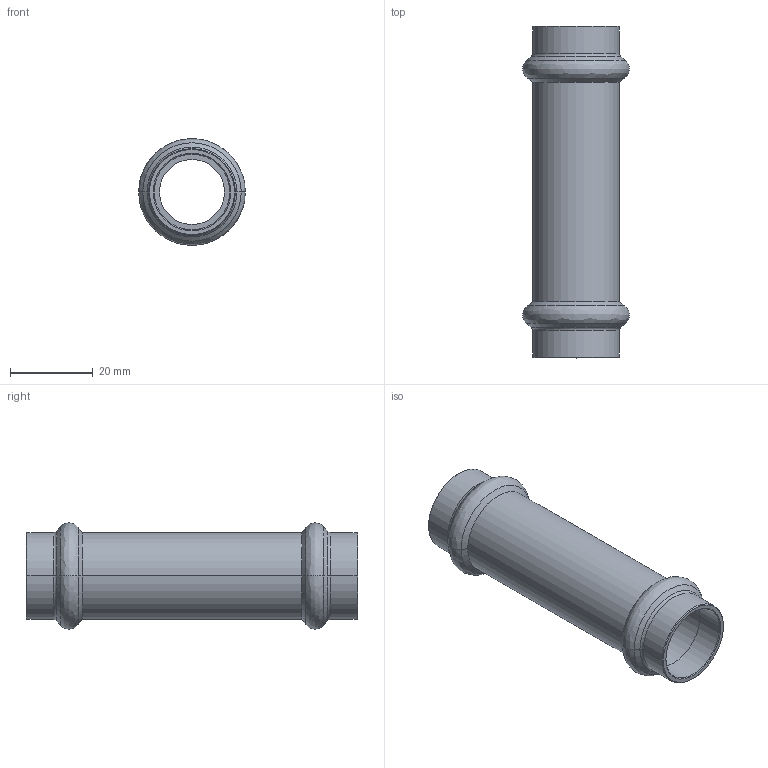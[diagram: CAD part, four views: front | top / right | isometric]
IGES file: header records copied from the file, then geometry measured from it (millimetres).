
Start section: Elysium IGES Interface
Global section: file name: C:\Users\Wallenburg\Desktop\3d modellen sudo\S-Pr VP\SP6275V\6275VW18.igs; native system: CoCreate Modeling 17.00A  17-Jun-2010; preprocessor: CoCreate IGES_3D V2.2; author: Unknown; organization: Unknown; date: 20130110.142707; units: millimetre
Bounding box: 25.7 x 80 x 25.68 mm (x, y, z)
Volume: 7958.1 mm3; surface area: 10616.4 mm2
Topology: 1 solids, 1 shells, 58 faces, 116 edges, 64 vertices
Faces by surface type: bspline 58
